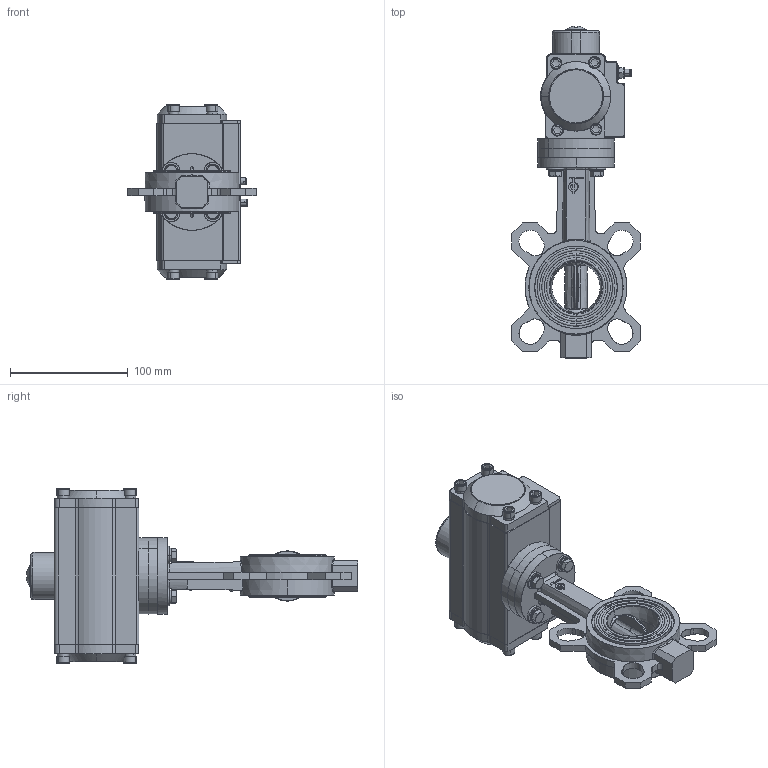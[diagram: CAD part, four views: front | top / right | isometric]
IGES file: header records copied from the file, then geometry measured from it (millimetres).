
Start section: SolidWorks IGES file using analytic representation for surfaces
Global section: file name: H:\BE FABRICATION\BE SERIE\VP\VP SERIE\F072 VPG\plan 3D\VPG-N03\WAFER\DN40\VP444X-N03XX0040.igs; native system: SolidWorks 2020; preprocessor: SolidWorks 2020; author: k.gigout; date: 220627.174352; units: millimetre
Bounding box: 109.17 x 281.82 x 148.56 mm (x, y, z)
Surface area: 126568.5 mm2 (no closed solid volume)
Topology: 0 solids, 0 shells, 841 faces, 19036 edges, 19032 vertices
Faces by surface type: bspline 527, revolution 314
